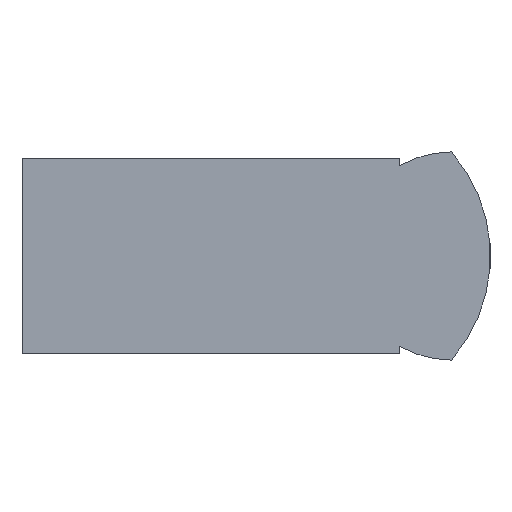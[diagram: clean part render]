
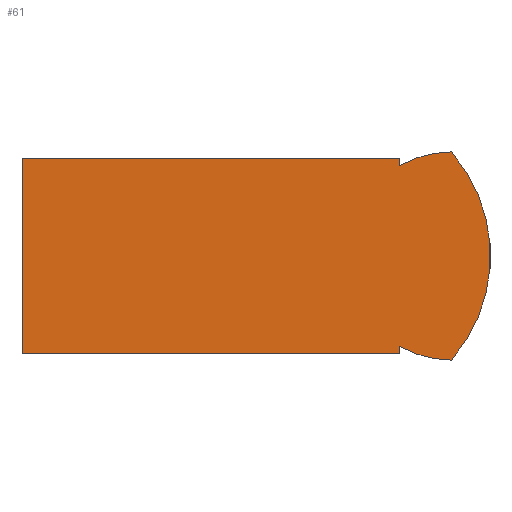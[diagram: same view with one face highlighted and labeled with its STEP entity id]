
A CAD part, left-side view. The second image highlights one B-rep face of the part: STEP entity #61.
In plain terms, the highlighted planar face has unit normal (-1, 0, 0).
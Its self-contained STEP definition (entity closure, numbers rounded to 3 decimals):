
#61 = ADVANCED_FACE( '', ( #131 ), #132, .F. );
#131 = FACE_OUTER_BOUND( '', #206, .T. );
#132 = PLANE( '', #207 );
#206 = EDGE_LOOP( '', ( #321, #322, #323, #324, #325, #326, #327, #328 ) );
#207 = AXIS2_PLACEMENT_3D( '', #329, #330, #331 );
#321 = ORIENTED_EDGE( '', *, *, #442, .F. );
#322 = ORIENTED_EDGE( '', *, *, #424, .T. );
#323 = ORIENTED_EDGE( '', *, *, #463, .T. );
#324 = ORIENTED_EDGE( '', *, *, #465, .F. );
#325 = ORIENTED_EDGE( '', *, *, #466, .F. );
#326 = ORIENTED_EDGE( '', *, *, #451, .T. );
#327 = ORIENTED_EDGE( '', *, *, #439, .F. );
#328 = ORIENTED_EDGE( '', *, *, #467, .F. );
#329 = CARTESIAN_POINT( '', ( -6., -28.416, 0. ) );
#330 = DIRECTION( '', ( 1., 0., 0. ) );
#331 = DIRECTION( '', ( 0., 0., -1. ) );
#424 = EDGE_CURVE( '', #491, #492, #493, .T. );
#439 = EDGE_CURVE( '', #517, #519, #520, .T. );
#442 = EDGE_CURVE( '', #491, #524, #525, .T. );
#451 = EDGE_CURVE( '', #540, #519, #541, .T. );
#463 = EDGE_CURVE( '', #492, #556, #558, .T. );
#465 = EDGE_CURVE( '', #560, #556, #561, .T. );
#466 = EDGE_CURVE( '', #540, #560, #562, .T. );
#467 = EDGE_CURVE( '', #524, #517, #563, .T. );
#491 = VERTEX_POINT( '', #590 );
#492 = VERTEX_POINT( '', #591 );
#493 = LINE( '', #592, #593 );
#517 = VERTEX_POINT( '', #624 );
#519 = VERTEX_POINT( '', #627 );
#520 = CIRCLE( '', #628, 8. );
#524 = VERTEX_POINT( '', #633 );
#525 = CIRCLE( '', #634, 8. );
#540 = VERTEX_POINT( '', #653 );
#541 = LINE( '', #654, #655 );
#556 = VERTEX_POINT( '', #677 );
#558 = LINE( '', #680, #681 );
#560 = VERTEX_POINT( '', #683 );
#561 = LINE( '', #684, #685 );
#562 = LINE( '', #686, #687 );
#563 = CIRCLE( '', #688, 12.167 );
#590 = CARTESIAN_POINT( '', ( -6., -29., 6.928 ) );
#591 = CARTESIAN_POINT( '', ( -6., -29., 7.5 ) );
#592 = CARTESIAN_POINT( '', ( -6., -29., -7.5 ) );
#593 = VECTOR( '', #722, 1000. );
#624 = CARTESIAN_POINT( '', ( -6., -33., -8. ) );
#627 = CARTESIAN_POINT( '', ( -6., -29., -6.928 ) );
#628 = AXIS2_PLACEMENT_3D( '', #740, #741, #742 );
#633 = CARTESIAN_POINT( '', ( -6., -33., 8. ) );
#634 = AXIS2_PLACEMENT_3D( '', #747, #748, #749 );
#653 = CARTESIAN_POINT( '', ( -6., -29., -7.5 ) );
#654 = CARTESIAN_POINT( '', ( -6., -29., -7.5 ) );
#655 = VECTOR( '', #763, 1000. );
#677 = CARTESIAN_POINT( '', ( -6., 0., 7.5 ) );
#680 = CARTESIAN_POINT( '', ( -6., -29., 7.5 ) );
#681 = VECTOR( '', #772, 1000. );
#683 = CARTESIAN_POINT( '', ( -6., 0., -7.5 ) );
#684 = CARTESIAN_POINT( '', ( -6., 0., -7.5 ) );
#685 = VECTOR( '', #773, 1000. );
#686 = CARTESIAN_POINT( '', ( -6., -29., -7.5 ) );
#687 = VECTOR( '', #774, 1000. );
#688 = AXIS2_PLACEMENT_3D( '', #775, #776, #777 );
#722 = DIRECTION( '', ( 0., 0., 1. ) );
#740 = CARTESIAN_POINT( '', ( -6., -33., 0. ) );
#741 = DIRECTION( '', ( 1., 0., 0. ) );
#742 = DIRECTION( '', ( 0., 0., -1. ) );
#747 = CARTESIAN_POINT( '', ( -6., -33., 0. ) );
#748 = DIRECTION( '', ( 1., 0., 0. ) );
#749 = DIRECTION( '', ( 0., 0., -1. ) );
#763 = DIRECTION( '', ( 0., 0., 1. ) );
#772 = DIRECTION( '', ( 0., 1., 0. ) );
#773 = DIRECTION( '', ( 0., 0., 1. ) );
#774 = DIRECTION( '', ( 0., 1., 0. ) );
#775 = CARTESIAN_POINT( '', ( -6., -23.833, 0. ) );
#776 = DIRECTION( '', ( 1., 0., 0. ) );
#777 = DIRECTION( '', ( 0., 0., -1. ) );
